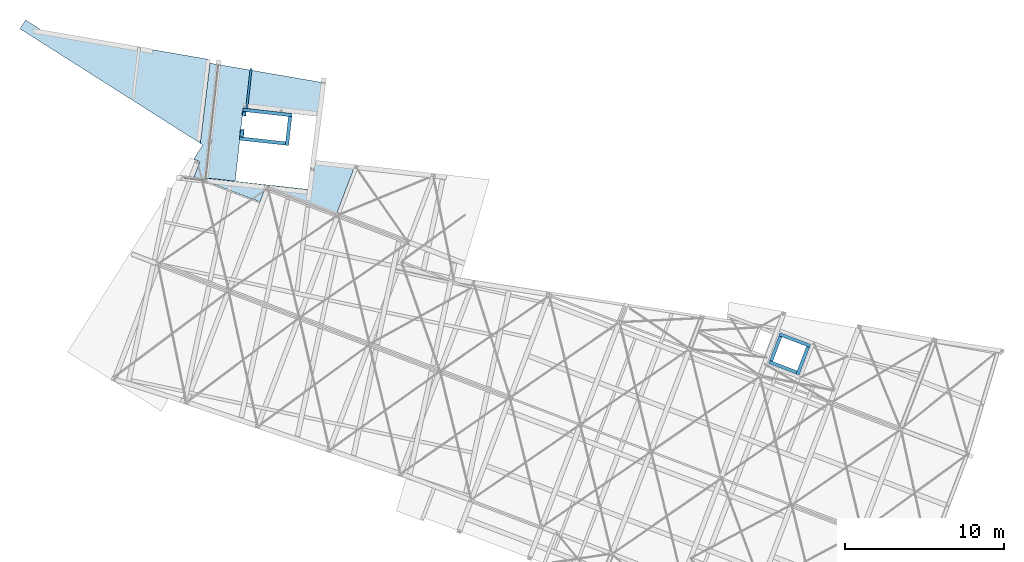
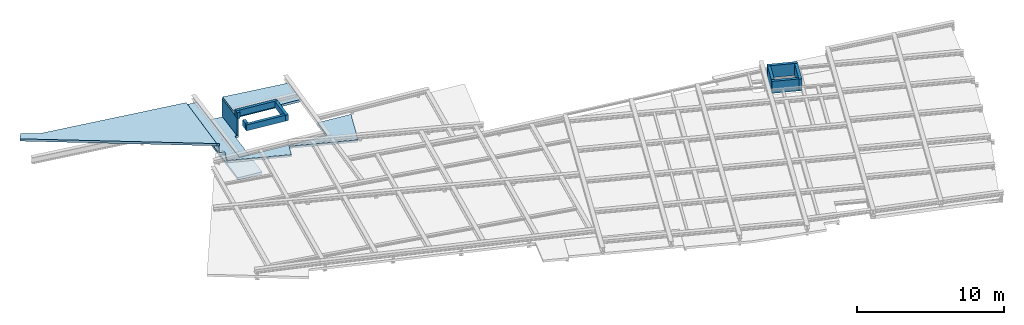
# One storey, part 19 of 21: 9 walls, 4 slabs, 1 opening.
"""IFC2X3 building model written with IfcOpenShell, lengths in millimetres."""

from ifc_helpers import new_model, entity, si_unit, converted_unit, derived_unit, direction, frame, frame_2d, origin, place, context, subcontext, project, spatial, polyline, rectangle, outline, extrude, clip, halfspace, material, layer, layer_set, layer_usage, type_object, element, save


model = new_model("IFC2X3")

# Units and contexts
model_context = context("Model", 3, precision=0.01, world=origin(), true_north=direction((6.123233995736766e-17, 1.0)))
body_context = subcontext(model_context, "Body", "Model", "MODEL_VIEW")
ifc_project = project(units=[si_unit("LENGTHUNIT", "METRE", prefix="MILLI"), converted_unit("PLANEANGLEUNIT", "DEGREE", entity("IfcPlaneAngleMeasure", 0.017453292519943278), si_unit("PLANEANGLEUNIT", "RADIAN"), dimensions=[0, 0, 0, 0, 0, 0, 0]), si_unit("AREAUNIT", "SQUARE_METRE"), derived_unit("THERMALTRANSMITTANCEUNIT", [(si_unit("MASSUNIT", "GRAM", prefix="KILO"), 1), (si_unit("THERMODYNAMICTEMPERATUREUNIT", "KELVIN"), -1), (si_unit("TIMEUNIT", "SECOND"), -3)])], contexts=[model_context])

# Site, building, storey
site_placement = place(None, frame((-72937.88054949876, 11621.45624098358, 0.0), z_axis=(0.0, 0.0, 1.0), x_axis=(0.9346418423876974, -0.35559053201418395, 0.0)))
site = spatial("IfcSite", under=ifc_project, at=site_placement, Name="Default", CompositionType="ELEMENT")
building_placement = place(site_placement, origin())
building = spatial("IfcBuilding", under=site, at=building_placement, CompositionType="ELEMENT")
storey_placement = place(building_placement, frame((0.0, 0.0, 4250.0)))
storey = spatial("IfcBuildingStorey", under=building, at=storey_placement, Name="01 eerste verdieping", CompositionType="ELEMENT", Elevation=4250.0)

# Slabs
ifc_material_1 = material(Name="beton_gewapend_ihw")
ifc_layer_1 = layer(ifc_material_1, 190.00000000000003)
ifc_layer_set_1 = layer_set([ifc_layer_1], Name="Floor:23.21_FL_Beton190mm (DATO)")
ifc_layer_usage_1 = layer_usage(ifc_layer_set_1, "AXIS3", "POSITIVE", 0.0)
slab_type_1 = type_object("IfcSlabType", Name="23.21_FL_Beton190mm (DATO)", PredefinedType="FLOOR", material=ifc_layer_set_1)
slab_1_placement = place(storey_placement, frame((1615.9319796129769, 12702.982078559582, -250.0)))
element("IfcSlab", 1, at=slab_1_placement, inside=storey, type_object=slab_type_1, material=ifc_layer_usage_1, Name="beton 250mm", ObjectType="{$type(\"IfcObjectType[Type]\")}", PredefinedType="FLOOR", context=body_context, shape_type="SweptSolid", body=[
    extrude(outline(polyline([(19496.870063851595, 5731.22923166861), (32647.034087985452, 8424.33719281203), (32514.616754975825, 9070.917156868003), (31290.408670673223, 8820.203589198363), (20777.73329986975, 10871.939756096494), (19496.870063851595, 5731.22923166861)])), frame((32647.034087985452, 11481.250366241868, 190.0), z_axis=(0.0, 0.0, -1.0), x_axis=(-1.0, 0.0, 0.0)), (0.0, 0.0, 1.0), 190.0000000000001),
])
ifc_material_2 = material(Name="hout_multiplex_plaat")
ifc_layer_2 = layer(ifc_material_2, 20.0)
ifc_material_3 = material(Name="hout_vuren_generiek_c18")
ifc_layer_3 = layer(ifc_material_3, 170.0)
ifc_layer_set_2 = layer_set([ifc_layer_2, ifc_layer_3], Name="Floor:23.")
ifc_layer_usage_2 = layer_usage(ifc_layer_set_2, "AXIS3", "POSITIVE", 0.0)
slab_type_2 = type_object("IfcSlabType", Name="23.", PredefinedType="FLOOR", material=ifc_layer_set_2)
slab_2_placement = place(storey_placement, frame((13538.492426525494, 27810.0, -250.0)))
element("IfcSlab", 2, at=slab_2_placement, inside=storey, type_object=slab_type_2, material=ifc_layer_usage_2, Name="Floor:23.", ObjectType="Floor:23.", PredefinedType="FLOOR", context=body_context, shape_type="SweptSolid", body=[
    extrude(outline(polyline([(-5405.753786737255, -3218.7551991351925), (-635.7537867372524, -3218.7551991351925), (-635.7537867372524, -4218.755199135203), (3794.2462132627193, -4218.755199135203), (3794.2462132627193, -3192.755199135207), (4213.749844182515, -3192.755199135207), (4001.1670824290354, -2149.539052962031), (4178.150209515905, -2113.2935226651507), (5405.753786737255, 2813.660777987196), (4707.499967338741, 2949.937469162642), (2908.0587454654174, -3989.138103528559), (-3381.852349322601, -2358.038066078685), (-2994.542350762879, -754.1638156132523), (-5405.753786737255, -131.457714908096), (-5405.753786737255, -3218.7551991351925)])), frame((5405.753786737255, 4218.755199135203, 190.0), z_axis=(0.0, 0.0, -1.0), x_axis=(-1.0, 0.0, 0.0)), (0.0, 0.0, 1.0), 190.0000000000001),
])
slab_3_placement = place(storey_placement, frame((13538.492426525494, 27810.0, -250.0)))
element("IfcSlab", 3, at=slab_3_placement, inside=storey, type_object=slab_type_2, material=ifc_layer_usage_2, Name="Floor:23.:2", ObjectType="Floor:23.", PredefinedType="FLOOR", context=body_context, shape_type="SweptSolid", body=[
    extrude(outline(polyline([(-2294.6442338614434, 2144.1568366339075), (2295.0733055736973, 953.9510709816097), (2903.951787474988, 3301.9320755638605), (-1793.6618853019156, 4218.755199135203), (-2294.6442338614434, 2144.1568366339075)])), frame((5405.753786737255, 4218.755199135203, 190.0), z_axis=(0.0, 0.0, -1.0), x_axis=(-1.0, 0.0, 0.0)), (0.0, 0.0, 1.0), 190.0000000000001),
])
ifc_layer_usage_3 = layer_usage(ifc_layer_set_2, "AXIS3", "POSITIVE", 0.0)
slab_4_placement = place(storey_placement, origin())
element("IfcSlab", 4, at=slab_4_placement, inside=storey, type_object=slab_type_2, material=ifc_layer_usage_3, Name="Floor:23.", ObjectType="Floor:23.", PredefinedType="FLOOR", context=body_context, shape_type="SweptSolid", body=[
    extrude(outline(polyline([(-713.8644568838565, -508.09318122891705), (3909.7077095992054, -508.093181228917), (3909.707709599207, 1302.6402903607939), (-3260.1164170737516, 1300.3354790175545), (-3131.5700883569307, -793.7833013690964), (-713.86445688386, -793.0061055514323), (-713.8644568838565, -508.09318122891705)])), frame((16186.872985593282, 32125.082802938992, -1730.0), z_axis=(0.0, 0.0, -1.0), x_axis=(0.25132842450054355, -0.9679018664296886, 0.0)), (0.0, 0.0, 1.0), 190.00000000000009),
])

# Walls
ifc_material_4 = material(Name="steenachtig_kalkzandsteen_generiek")
ifc_layer_4 = layer(ifc_material_4, 214.0)
ifc_layer_set_3 = layer_set([ifc_layer_4], Name="Basic Wall:22.21_WA_Kalkzandsteen214mm")
ifc_layer_usage_4 = layer_usage(ifc_layer_set_3, "AXIS2", "NEGATIVE", 107.0)
wall_type_1 = type_object("IfcWallType", Name="NLRS_22_WA_LIB_Muur_gen_EPA:Kalkzandsteen 200mm", PredefinedType="STANDARD", material=ifc_layer_set_3)
wall_1_placement = place(storey_placement, frame((16513.246333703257, 32836.91860785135, 0.0), z_axis=(0.0, 0.0, 1.0), x_axis=(0.9679826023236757, 0.2510172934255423, 0.0)))
element("IfcWallStandardCase", 5, at=wall_1_placement, inside=storey, type_object=wall_type_1, material=ifc_layer_usage_4, Name="Basic Wall:22.21_WA_Kalkzandsteen214mm", ObjectType="Basic Wall:22.21_WA_Kalkzandsteen214mm", context=body_context, shape_type="Clipping", body=[
    clip(extrude(outline(polyline([(3107.999972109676, -107.0), (3107.999972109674, 107.0), (4.3983270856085e-06, 107.0), (0.0, -107.0), (214.0, -107.0), (2893.999972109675, -107.0), (3107.999972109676, -107.0)])), origin(), (0.0, 0.0, 1.0), 500.00000000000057), halfspace(frame((0.0, 0.0, -4250.0)), True)),
])
ifc_layer_usage_5 = layer_usage(ifc_layer_set_3, "AXIS2", "NEGATIVE", 107.0)
wall_2_placement = place(storey_placement, frame((19445.020946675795, 33486.64735997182, 0.0), z_axis=(0.0, 0.0, 1.0), x_axis=(0.2510172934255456, -0.967982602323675, 0.0)))
element("IfcWallStandardCase", 6, at=wall_2_placement, inside=storey, type_object=wall_type_1, material=ifc_layer_usage_5, Name="Basic Wall:22.21_WA_Kalkzandsteen214mm", ObjectType="Basic Wall:22.21_WA_Kalkzandsteen214mm", context=body_context, shape_type="Clipping", body=[
    clip(extrude(rectangle(XDim=1814.000003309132, YDim=214.0000000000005, at=frame_2d((907.0000016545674, -3.240074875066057e-12), x_axis=(-1.0, 0.0))), origin(), (0.0, 0.0, 1.0), 500.00000000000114), halfspace(frame((0.0, 0.0, -4250.0)), True)),
])
ifc_layer_usage_6 = layer_usage(ifc_layer_set_3, "AXIS2", "NEGATIVE", 107.0)
wall_3_placement = place(storey_placement, frame((19769.933328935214, 31807.442204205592, 0.0), z_axis=(0.0, 0.0, 1.0), x_axis=(-0.9679826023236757, -0.2510172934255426, 0.0)))
element("IfcWallStandardCase", 7, at=wall_3_placement, inside=storey, type_object=wall_type_1, material=ifc_layer_usage_6, Name="Basic Wall:22.21_WA_Kalkzandsteen214mm", ObjectType="Basic Wall:22.21_WA_Kalkzandsteen214mm", context=body_context, shape_type="Clipping", body=[
    clip(extrude(outline(polyline([(2894.000004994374, -107.0), (2894.0000093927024, 107.0), (0.0, 107.0), (0.0, -107.0), (2680.000004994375, -107.0), (2894.000004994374, -107.0)])), origin(), (0.0, 0.0, 1.0), 500.00000000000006), halfspace(frame((0.0, 0.0, -4250.0)), True)),
])

# Wall, opening
ifc_layer_usage_7 = layer_usage(ifc_layer_set_3, "AXIS2", "NEGATIVE", 107.0)
wall_4_placement = place(storey_placement, frame((17045.306961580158, 31211.43114249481, 0.0), z_axis=(0.0, 0.0, 1.0), x_axis=(-0.25101727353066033, 0.9679826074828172, 0.0)))
wall_4 = element("IfcWallStandardCase", 8, at=wall_4_placement, inside=storey, type_object=wall_type_1, material=ifc_layer_usage_7, Name="Basic Wall:22.21_WA_Kalkzandsteen214mm", ObjectType="Basic Wall:22.21_WA_Kalkzandsteen214mm", context=body_context, shape_type="Clipping", body=[
    clip(extrude(outline(polyline([(0.0, 107.0), (4.3983258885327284e-06, -107.0), (1600.000007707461, -107.0), (1600.0000033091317, 107.0), (0.0, 107.0)])), origin(), (0.0, 0.0, 1.0), 500.00000000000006), halfspace(frame((0.0, 0.0, -4250.0)), True)),
])
opening_placement = place(wall_4_placement, frame((-25933.4560205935, 24334.169026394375, -1730.0)))
element("IfcOpeningElement", 9, at=opening_placement, cuts=wall_4, Name="31.10_Constructiesparing", ObjectType="Opening", context=body_context, shape_type="SweptSolid", body=[
    extrude(rectangle(XDim=2299.9999999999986, YDim=900.0000000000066, at=frame_2d((-2.2737367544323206e-13, 2.5579538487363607e-13), x_axis=(1.0, 0.0))), frame((26840.455596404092, -24441.169026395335, 1150.0), z_axis=(0.0, 1.0, 0.0), x_axis=(0.0, 0.0, -1.0)), (0.0, 0.0, 1.0), 214.00000000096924),
])

# Walls
ifc_layer_usage_8 = layer_usage(ifc_layer_set_3, "AXIS2", "POSITIVE", -107.0)
wall_5_placement = place(storey_placement, frame((53046.0, 31647.0, 0.0)))
element("IfcWallStandardCase", 10, at=wall_5_placement, inside=storey, type_object=wall_type_1, material=ifc_layer_usage_8, Name="Basic Wall:22.21_WA_Kalkzandsteen214mm", ObjectType="Basic Wall:22.21_WA_Kalkzandsteen214mm", context=body_context, shape_type="Clipping", body=[
    clip(extrude(rectangle(XDim=2078.000000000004, YDim=213.999999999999, at=frame_2d((1039.000000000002, 2.7213786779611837e-12), x_axis=(-1.0, 0.0))), origin(), (0.0, 0.0, 1.0), 999.9999999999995), halfspace(frame((0.0, 0.0, -4250.0)), True)),
])
ifc_layer_usage_9 = layer_usage(ifc_layer_set_3, "AXIS2", "POSITIVE", -107.0)
wall_6_placement = place(storey_placement, frame((55017.0, 31540.0, 0.0), z_axis=(0.0, 0.0, 1.0), x_axis=(0.0, -1.0, 0.0)))
element("IfcWallStandardCase", 11, at=wall_6_placement, inside=storey, type_object=wall_type_1, material=ifc_layer_usage_9, Name="Basic Wall:22.21_WA_Kalkzandsteen214mm", ObjectType="Basic Wall:22.21_WA_Kalkzandsteen214mm", context=body_context, shape_type="Clipping", body=[
    clip(extrude(rectangle(XDim=1864.000000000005, YDim=214.00000000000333, at=frame_2d((932.0000000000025, 0.0), x_axis=(-1.0, 0.0))), origin(), (0.0, 0.0, 1.0), 999.9999999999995), halfspace(frame((0.0, 0.0, -4250.0)), True)),
])
ifc_layer_usage_10 = layer_usage(ifc_layer_set_3, "AXIS2", "POSITIVE", -107.0)
wall_7_placement = place(storey_placement, frame((54910.0, 29783.0, 0.0), z_axis=(0.0, 0.0, 1.0), x_axis=(-1.0, 0.0, 0.0)))
element("IfcWallStandardCase", 12, at=wall_7_placement, inside=storey, type_object=wall_type_1, material=ifc_layer_usage_10, Name="Basic Wall:22.21_WA_Kalkzandsteen214mm", ObjectType="Basic Wall:22.21_WA_Kalkzandsteen214mm", context=body_context, shape_type="Clipping", body=[
    clip(extrude(rectangle(XDim=1864.0000000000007, YDim=213.99999999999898, at=frame_2d((932.0000000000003, 2.4442670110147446e-12), x_axis=(-1.0, 0.0))), origin(), (0.0, 0.0, 1.0), 999.9999999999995), halfspace(frame((0.0, 0.0, -4250.0)), True)),
])
ifc_layer_usage_11 = layer_usage(ifc_layer_set_3, "AXIS2", "POSITIVE", -107.0)
wall_8_placement = place(storey_placement, frame((53153.0, 29890.0, 0.0), z_axis=(0.0, 0.0, 1.0), x_axis=(0.0, 1.0, 0.0)))
element("IfcWallStandardCase", 13, at=wall_8_placement, inside=storey, type_object=wall_type_1, material=ifc_layer_usage_11, Name="Basic Wall:22.21_WA_Kalkzandsteen214mm", ObjectType="Basic Wall:22.21_WA_Kalkzandsteen214mm", context=body_context, shape_type="Clipping", body=[
    clip(extrude(rectangle(XDim=1650.0000000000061, YDim=214.00000000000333, at=frame_2d((825.0000000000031, 0.0), x_axis=(-1.0, 0.0))), origin(), (0.0, 0.0, 1.0), 999.9999999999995), halfspace(frame((0.0, 0.0, -4250.0)), True)),
])
ifc_layer_5 = layer(ifc_material_2, 15.0)
ifc_material_5 = material(Name="isolatie_steenwol_deken")
ifc_layer_6 = layer(ifc_material_5, 100.0)
ifc_layer_7 = layer(ifc_material_2, 15.0)
ifc_layer_set_4 = layer_set([ifc_layer_5, ifc_layer_6, ifc_layer_7], Name="Basic Wall:21.23_WA_HSB-Wand130mm")
ifc_layer_usage_12 = layer_usage(ifc_layer_set_4, "AXIS2", "POSITIVE", -65.0)
wall_type_2 = type_object("IfcWallType", Name="NLRS_21_WA_LIB_Wand_gen_EPA:HSB-wand 130mm", PredefinedType="STANDARD", material=ifc_layer_set_4)
wall_9_placement = place(storey_placement, frame((16715.606019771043, 32985.47063458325, -1730.0), z_axis=(0.0, 0.0, 1.0), x_axis=(-0.25101726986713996, 0.9679826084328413, 0.0)))
element("IfcWallStandardCase", 14, at=wall_9_placement, inside=storey, type_object=wall_type_2, material=ifc_layer_usage_12, Name="Basic Wall:21.23_WA_HSB-Wand130mm", ObjectType="Basic Wall:21.23_WA_HSB-Wand130mm", context=body_context, shape_type="SweptSolid", body=[
    extrude(rectangle(XDim=2539.5782425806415, YDim=130.0000000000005, at=frame_2d((1269.7891212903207, -4.263256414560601e-13), x_axis=(-1.0, 0.0))), origin(), (0.0, 0.0, 1.0), 1479.9999999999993),
])

save(model, "model.ifc")
